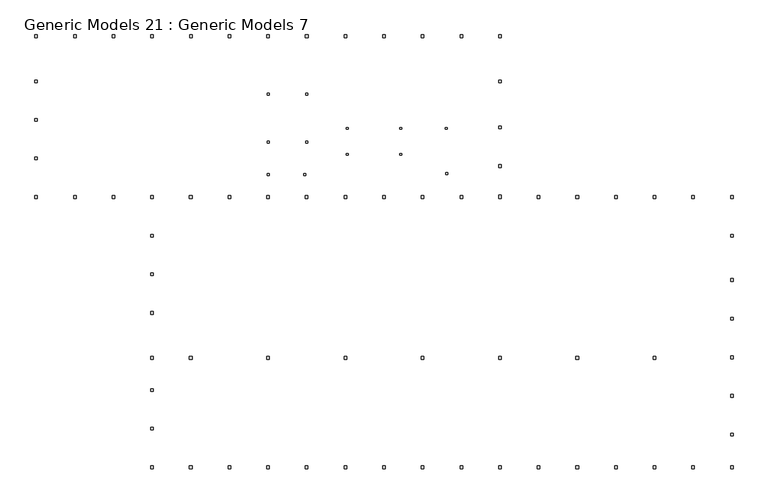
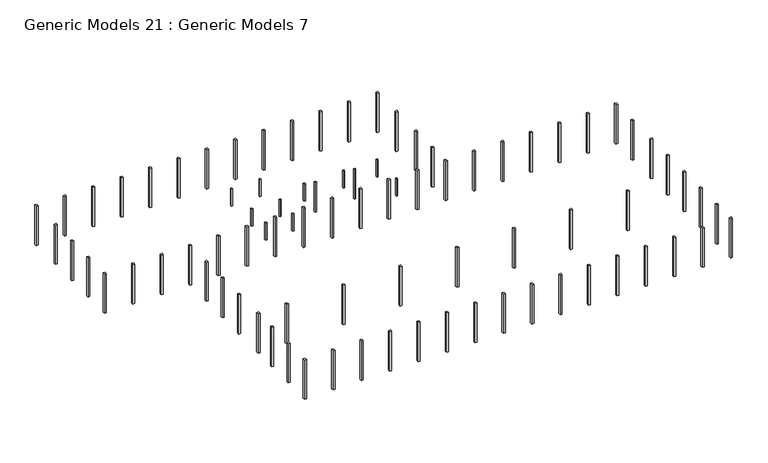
"""IFC4 building model written with IfcOpenShell, lengths in millimetres: proxy geometry, Generic Models 21 : Generic Models 7."""

from ifc_helpers import new_model, si_unit, frame, origin, place, context, project, spatial, polyline, outline, extrude, source, transform, mapped, element, save


def generic_models_21_generic_models_7_8d2ae4a9(model_context):
    return source(origin(), model_context, "Body", "SweptSolid", [
        extrude(outline(polyline([(-89200.5917799, 15507.4703267), (-89200.5917799, 15207.4703267), (-89500.5917799, 15207.4703267), (-89500.5917799, 15507.4703267), (-89200.5917799, 15507.4703267)])), frame((0.0, 0.0, 44170.0), z_axis=(0.0, 0.0, 1.0), x_axis=(1.0, 0.0, 0.0)), (0.0, 0.0, 1.0), 3800.0),
        extrude(outline(polyline([(-104647.9372768, 18469.2777512), (-104647.9372768, 18169.2777512), (-104947.9372768, 18169.2777512), (-104947.9372768, 18469.2777512), (-104647.9372768, 18469.2777512)])), frame((0.0, 0.0, 44170.0), z_axis=(0.0, 0.0, 1.0), x_axis=(1.0, 0.0, 0.0)), (0.0, 0.0, 1.0), 6657.1066037),
        extrude(outline(polyline([(-96347.9372768, 18469.2777512), (-96347.9372768, 18169.2777512), (-96647.9372768, 18169.2777512), (-96647.9372768, 18469.2777512), (-96347.9372768, 18469.2777512)])), frame((0.0, 0.0, 44170.0), z_axis=(0.0, 0.0, 1.0), x_axis=(1.0, 0.0, 0.0)), (0.0, 0.0, 1.0), 6657.1066037),
        extrude(outline(polyline([(-116950.5917799, 27808.4151802), (-116950.5917799, 27508.4151802), (-117250.5917799, 27508.4151802), (-117250.5917799, 27808.4151802), (-116950.5917799, 27808.4151802)])), frame((0.0, 0.0, 44170.0), z_axis=(0.0, 0.0, 1.0), x_axis=(1.0, 0.0, 0.0)), (0.0, 0.0, 1.0), 3800.0),
        extrude(outline(polyline([(-116950.5917799, 20407.4925063), (-116950.5917799, 20107.4925063), (-117250.5917799, 20107.4925063), (-117250.5917799, 20407.4925063), (-116950.5917799, 20407.4925063)])), frame((0.0, 0.0, 44170.0), z_axis=(0.0, 0.0, 1.0), x_axis=(1.0, 0.0, 0.0)), (0.0, 0.0, 1.0), 3800.0),
        extrude(outline(polyline([(-116950.5917799, 15307.4703267), (-116950.5917799, 15007.4703267), (-117250.5917799, 15007.4703267), (-117250.5917799, 15307.4703267), (-116950.5917799, 15307.4703267)])), frame((0.0, 0.0, 44170.0), z_axis=(0.0, 0.0, 1.0), x_axis=(1.0, 0.0, 0.0)), (0.0, 0.0, 1.0), 3800.0),
        extrude(outline(polyline([(-110948.6902477, 27808.4151802), (-110948.6902477, 27508.4151802), (-111248.6902477, 27508.4151802), (-111248.6902477, 27808.4151802), (-110948.6902477, 27808.4151802)])), frame((0.0, 0.0, 44170.0), z_axis=(0.0, 0.0, 1.0), x_axis=(1.0, 0.0, 0.0)), (0.0, 0.0, 1.0), 3800.0),
        extrude(outline(polyline([(-110948.6902477, 20407.4925063), (-110948.6902477, 20107.4925063), (-111248.6902477, 20107.4925063), (-111248.6902477, 20407.4925063), (-110948.6902477, 20407.4925063)])), frame((0.0, 0.0, 44170.0), z_axis=(0.0, 0.0, 1.0), x_axis=(1.0, 0.0, 0.0)), (0.0, 0.0, 1.0), 3800.0),
        extrude(outline(polyline([(-111248.6902477, 15307.4703267), (-111248.6902477, 15007.4703267), (-111548.6902477, 15007.4703267), (-111548.6902477, 15307.4703267), (-111248.6902477, 15307.4703267)])), frame((0.0, 0.0, 44170.0), z_axis=(0.0, 0.0, 1.0), x_axis=(1.0, 0.0, 0.0)), (0.0, 0.0, 1.0), 3800.0),
        extrude(outline(polyline([(-104647.9372768, 22507.4703267), (-104647.9372768, 22207.4703267), (-104947.9372768, 22207.4703267), (-104947.9372768, 22507.4703267), (-104647.9372768, 22507.4703267)])), frame((0.0, 0.0, 44170.0), z_axis=(0.0, 0.0, 1.0), x_axis=(1.0, 0.0, 0.0)), (0.0, 0.0, 1.0), 3800.0),
        extrude(outline(polyline([(-96347.9372768, 22507.4703267), (-96347.9372768, 22207.4703267), (-96647.9372768, 22207.4703267), (-96647.9372768, 22507.4703267), (-96347.9372768, 22507.4703267)])), frame((0.0, 0.0, 44170.0), z_axis=(0.0, 0.0, 1.0), x_axis=(1.0, 0.0, 0.0)), (0.0, 0.0, 1.0), 3800.0),
        extrude(outline(polyline([(-89277.7355895, 22507.4703267), (-89277.7355895, 22207.4703267), (-89577.7355895, 22207.4703267), (-89577.7355895, 22507.4703267), (-89277.7355895, 22507.4703267)])), frame((0.0, 0.0, 44170.0), z_axis=(0.0, 0.0, 1.0), x_axis=(1.0, 0.0, 0.0)), (0.0, 0.0, 1.0), 3800.0),
        extrude(outline(polyline([(-104898.6902477, 36890.8418015), (-104898.6902477, 36455.969902), (-105298.6902477, 36455.969902), (-105298.6902477, 36890.8418015), (-104898.6902477, 36890.8418015)])), frame((0.0, 0.0, 42595.7610843), z_axis=(0.0, 0.0, 1.0), x_axis=(1.0, 0.0, 0.0)), (0.0, 0.0, 1.0), 8775.9184321),
        extrude(outline(polyline([(-128898.6902477, 36890.8418015), (-128898.6902477, 36455.969902), (-129298.6902477, 36455.969902), (-129298.6902477, 36890.8418015), (-128898.6902477, 36890.8418015)])), frame((0.0, 0.0, 42595.7610843), z_axis=(0.0, 0.0, 1.0), x_axis=(1.0, 0.0, 0.0)), (0.0, 0.0, 1.0), 8775.9184321),
        extrude(outline(polyline([(-80898.6902477, 36890.8418015), (-80898.6902477, 36430.8418015), (-81298.6902477, 36430.8418015), (-81298.6902477, 36890.8418015), (-80898.6902477, 36890.8418015)])), frame((0.0, 0.0, 42595.7610843), z_axis=(0.0, 0.0, 1.0), x_axis=(1.0, 0.0, 0.0)), (0.0, 0.0, 1.0), 8775.9184321),
        extrude(outline(polyline([(-68900.5917799, 11908.2777512), (-68900.5917799, 11448.2777512), (-69300.5917799, 11448.2777512), (-69300.5917799, 11908.2777512), (-68900.5917799, 11908.2777512)])), frame((0.0, 0.0, 42595.7610843), z_axis=(0.0, 0.0, 1.0), x_axis=(1.0, 0.0, 0.0)), (0.0, 0.0, 1.0), 8775.9184321),
        extrude(outline(polyline([(-92900.5917799, 11928.2777512), (-92900.5917799, 11448.2777512), (-93300.5917799, 11448.2777512), (-93300.5917799, 11928.2777512), (-92900.5917799, 11928.2777512)])), frame((0.0, 0.0, 42595.7610843), z_axis=(0.0, 0.0, 1.0), x_axis=(1.0, 0.0, 0.0)), (0.0, 0.0, 1.0), 8775.9184321),
        extrude(outline(polyline([(-44900.5917799, 11908.2777512), (-44900.5917799, 11448.2777512), (-45300.5917799, 11448.2777512), (-45300.5917799, 11908.2777512), (-44900.5917799, 11908.2777512)])), frame((0.0, 0.0, 42595.7610843), z_axis=(0.0, 0.0, 1.0), x_axis=(1.0, 0.0, 0.0)), (0.0, 0.0, 1.0), 8775.9184321),
        extrude(outline(polyline([(-86898.6902477, 36890.8418015), (-86898.6902477, 36430.8418015), (-87298.6902477, 36430.8418015), (-87298.6902477, 36890.8418015), (-86898.6902477, 36890.8418015)])), frame((0.0, 0.0, 42595.7610843), z_axis=(0.0, 0.0, 1.0), x_axis=(1.0, 0.0, 0.0)), (0.0, 0.0, 1.0), 8775.9184321),
        extrude(outline(polyline([(-92898.6902477, 36890.8418015), (-92898.6902477, 36430.8418015), (-93298.6902477, 36430.8418015), (-93298.6902477, 36890.8418015), (-92898.6902477, 36890.8418015)])), frame((0.0, 0.0, 42595.7610843), z_axis=(0.0, 0.0, 1.0), x_axis=(1.0, 0.0, 0.0)), (0.0, 0.0, 1.0), 8775.9184321),
        extrude(outline(polyline([(-98898.6902477, 36890.8418015), (-98898.6902477, 36430.8418015), (-99298.6902477, 36430.8418015), (-99298.6902477, 36890.8418015), (-98898.6902477, 36890.8418015)])), frame((0.0, 0.0, 42595.7610843), z_axis=(0.0, 0.0, 1.0), x_axis=(1.0, 0.0, 0.0)), (0.0, 0.0, 1.0), 8775.9184321),
        extrude(outline(polyline([(-110898.6902477, 36890.8418015), (-110898.6902477, 36455.969902), (-111298.6902477, 36455.969902), (-111298.6902477, 36890.8418015), (-110898.6902477, 36890.8418015)])), frame((0.0, 0.0, 42595.7610843), z_axis=(0.0, 0.0, 1.0), x_axis=(1.0, 0.0, 0.0)), (0.0, 0.0, 1.0), 8775.9184321),
        extrude(outline(polyline([(-116898.6902477, 36890.8418015), (-116898.6902477, 36455.969902), (-117298.6902477, 36455.969902), (-117298.6902477, 36890.8418015), (-116898.6902477, 36890.8418015)])), frame((0.0, 0.0, 42595.7610843), z_axis=(0.0, 0.0, 1.0), x_axis=(1.0, 0.0, 0.0)), (0.0, 0.0, 1.0), 8775.9184321),
        extrude(outline(polyline([(-122898.6902477, 36890.8418015), (-122898.6902477, 36455.969902), (-123298.6902477, 36455.969902), (-123298.6902477, 36890.8418015), (-122898.6902477, 36890.8418015)])), frame((0.0, 0.0, 42595.7610843), z_axis=(0.0, 0.0, 1.0), x_axis=(1.0, 0.0, 0.0)), (0.0, 0.0, 1.0), 8775.9184321),
        extrude(outline(polyline([(-134898.6902477, 36890.8418015), (-134898.6902477, 36455.969902), (-135298.6902477, 36455.969902), (-135298.6902477, 36890.8418015), (-134898.6902477, 36890.8418015)])), frame((0.0, 0.0, 42595.7610843), z_axis=(0.0, 0.0, 1.0), x_axis=(1.0, 0.0, 0.0)), (0.0, 0.0, 1.0), 8775.9184321),
        extrude(outline(polyline([(-80898.6902477, 22694.7192501), (-80898.6902477, 22294.7192501), (-81298.6902477, 22294.7192501), (-81298.6902477, 22694.7192501), (-80898.6902477, 22694.7192501)])), frame((0.0, 0.0, 42595.7610843), z_axis=(0.0, 0.0, 1.0), x_axis=(1.0, 0.0, 0.0)), (0.0, 0.0, 1.0), 8775.9184321),
        extrude(outline(polyline([(-80898.6902477, 16694.7192501), (-80898.6902477, 16294.7192501), (-81298.6902477, 16294.7192501), (-81298.6902477, 16694.7192501), (-80898.6902477, 16694.7192501)])), frame((0.0, 0.0, 42595.7610843), z_axis=(0.0, 0.0, 1.0), x_axis=(1.0, 0.0, 0.0)), (0.0, 0.0, 1.0), 8775.9184321),
        extrude(outline(polyline([(-44900.5917799, 5888.2777512), (-44900.5917799, 5488.2777512), (-45300.5917799, 5488.2777512), (-45300.5917799, 5888.2777512), (-44900.5917799, 5888.2777512)])), frame((0.0, 0.0, 42595.7610843), z_axis=(0.0, 0.0, 1.0), x_axis=(1.0, 0.0, 0.0)), (0.0, 0.0, 1.0), 8775.9184321),
        extrude(outline(polyline([(-44900.5917799, -1005.2807499), (-44900.5917799, -1405.2807499), (-45300.5917799, -1405.2807499), (-45300.5917799, -1005.2807499), (-44900.5917799, -1005.2807499)])), frame((0.0, 0.0, 42595.7610843), z_axis=(0.0, 0.0, 1.0), x_axis=(1.0, 0.0, 0.0)), (0.0, 0.0, 1.0), 8775.9184321),
        extrude(outline(polyline([(-104900.5917799, 11908.2777512), (-104900.5917799, 11428.2777512), (-105300.5917799, 11428.2777512), (-105300.5917799, 11908.2777512), (-104900.5917799, 11908.2777512)])), frame((0.0, 0.0, 42595.7610843), z_axis=(0.0, 0.0, 1.0), x_axis=(1.0, 0.0, 0.0)), (0.0, 0.0, 1.0), 8775.9184321),
        extrude(outline(polyline([(-110900.5917799, 11908.2777512), (-110900.5917799, 11448.2777512), (-111300.5917799, 11448.2777512), (-111300.5917799, 11908.2777512), (-110900.5917799, 11908.2777512)])), frame((0.0, 0.0, 42595.7610843), z_axis=(0.0, 0.0, 1.0), x_axis=(1.0, 0.0, 0.0)), (0.0, 0.0, 1.0), 8775.9184321),
        extrude(outline(polyline([(-98902.4933121, 11928.2777512), (-98902.4933121, 11448.2777512), (-99302.4933121, 11448.2777512), (-99302.4933121, 11928.2777512), (-98902.4933121, 11928.2777512)])), frame((0.0, 0.0, 42595.7610843), z_axis=(0.0, 0.0, 1.0), x_axis=(1.0, 0.0, 0.0)), (0.0, 0.0, 1.0), 8775.9184321),
        extrude(outline(polyline([(-74900.5917799, 11908.2777512), (-74900.5917799, 11448.2777512), (-75300.5917799, 11448.2777512), (-75300.5917799, 11908.2777512), (-74900.5917799, 11908.2777512)])), frame((0.0, 0.0, 42595.7610843), z_axis=(0.0, 0.0, 1.0), x_axis=(1.0, 0.0, 0.0)), (0.0, 0.0, 1.0), 8775.9184321),
        extrude(outline(polyline([(-80900.5917799, 11958.2777512), (-80900.5917799, 11448.2777512), (-81300.5917799, 11448.2777512), (-81300.5917799, 11958.2777512), (-80900.5917799, 11958.2777512)])), frame((0.0, 0.0, 42595.7610843), z_axis=(0.0, 0.0, 1.0), x_axis=(1.0, 0.0, 0.0)), (0.0, 0.0, 1.0), 8775.9184321),
        extrude(outline(polyline([(-86900.5917799, 11928.2777512), (-86900.5917799, 11448.2777512), (-87300.5917799, 11448.2777512), (-87300.5917799, 11928.2777512), (-86900.5917799, 11928.2777512)])), frame((0.0, 0.0, 42595.7610843), z_axis=(0.0, 0.0, 1.0), x_axis=(1.0, 0.0, 0.0)), (0.0, 0.0, 1.0), 8775.9184321),
        extrude(outline(polyline([(-50900.5917799, 11908.2777512), (-50900.5917799, 11448.2777512), (-51300.5917799, 11448.2777512), (-51300.5917799, 11908.2777512), (-50900.5917799, 11908.2777512)])), frame((0.0, 0.0, 42595.7610843), z_axis=(0.0, 0.0, 1.0), x_axis=(1.0, 0.0, 0.0)), (0.0, 0.0, 1.0), 8775.9184321),
        extrude(outline(polyline([(-56900.5917799, 11908.2777512), (-56900.5917799, 11448.2777512), (-57300.5917799, 11448.2777512), (-57300.5917799, 11908.2777512), (-56900.5917799, 11908.2777512)])), frame((0.0, 0.0, 42595.7610843), z_axis=(0.0, 0.0, 1.0), x_axis=(1.0, 0.0, 0.0)), (0.0, 0.0, 1.0), 8775.9184321),
        extrude(outline(polyline([(-62900.5917799, 11908.2777512), (-62900.5917799, 11448.2777512), (-63300.5917799, 11448.2777512), (-63300.5917799, 11908.2777512), (-62900.5917799, 11908.2777512)])), frame((0.0, 0.0, 42595.7610843), z_axis=(0.0, 0.0, 1.0), x_axis=(1.0, 0.0, 0.0)), (0.0, 0.0, 1.0), 8775.9184321),
        extrude(outline(polyline([(-122900.5917799, 11928.2777512), (-122900.5917799, 11448.2777512), (-123300.5917799, 11448.2777512), (-123300.5917799, 11928.2777512), (-122900.5917799, 11928.2777512)])), frame((0.0, 0.0, 42595.7610843), z_axis=(0.0, 0.0, 1.0), x_axis=(1.0, 0.0, 0.0)), (0.0, 0.0, 1.0), 8775.9184321),
        extrude(outline(polyline([(-134900.5917799, 11908.2777512), (-134900.5917799, 11448.2777512), (-135300.5917799, 11448.2777512), (-135300.5917799, 11908.2777512), (-134900.5917799, 11908.2777512)])), frame((0.0, 0.0, 42595.7610843), z_axis=(0.0, 0.0, 1.0), x_axis=(1.0, 0.0, 0.0)), (0.0, 0.0, 1.0), 8775.9184321),
        extrude(outline(polyline([(-128902.4933121, 11928.2777512), (-128902.4933121, 11448.2777512), (-129302.4933121, 11448.2777512), (-129302.4933121, 11928.2777512), (-128902.4933121, 11928.2777512)])), frame((0.0, 0.0, 42595.7610843), z_axis=(0.0, 0.0, 1.0), x_axis=(1.0, 0.0, 0.0)), (0.0, 0.0, 1.0), 8775.9184321),
        extrude(outline(polyline([(-116900.5917799, 11928.2777512), (-116900.5917799, 11448.2777512), (-117300.5917799, 11448.2777512), (-117300.5917799, 11928.2777512), (-116900.5917799, 11928.2777512)])), frame((0.0, 0.0, 42595.7610843), z_axis=(0.0, 0.0, 1.0), x_axis=(1.0, 0.0, 0.0)), (0.0, 0.0, 1.0), 8775.9184321),
        extrude(outline(polyline([(-135300.5917799, 5888.2777512), (-134900.5917799, 5888.2777512), (-134900.5917799, 5468.2777512), (-135300.5917799, 5468.2777512), (-135300.5917799, 5888.2777512)])), frame((0.0, 0.0, 42595.7610843), z_axis=(0.0, 0.0, 1.0), x_axis=(1.0, 0.0, 0.0)), (0.0, 0.0, 1.0), 8775.9184321),
        extrude(outline(polyline([(-135300.5917799, -125.2807499), (-134900.5917799, -125.2807499), (-134900.5917799, -525.2807499), (-135300.5917799, -525.2807499), (-135300.5917799, -125.2807499)])), frame((0.0, 0.0, 42595.7610843), z_axis=(0.0, 0.0, 1.0), x_axis=(1.0, 0.0, 0.0)), (0.0, 0.0, 1.0), 8775.9184321),
        extrude(outline(polyline([(-68900.5917799, -30551.740321), (-69300.5917799, -30551.740321), (-69300.5917799, -30091.740321), (-68900.5917799, -30091.740321), (-68900.5917799, -30551.740321)])), frame((0.0, 0.0, 42595.7610843), z_axis=(0.0, 0.0, 1.0), x_axis=(1.0, 0.0, 0.0)), (0.0, 0.0, 1.0), 8775.9184321),
        extrude(outline(polyline([(-92900.5917799, -30551.740321), (-93300.5917799, -30551.740321), (-93300.5917799, -30091.740321), (-92900.5917799, -30091.740321), (-92900.5917799, -30551.740321)])), frame((0.0, 0.0, 42595.7610843), z_axis=(0.0, 0.0, 1.0), x_axis=(1.0, 0.0, 0.0)), (0.0, 0.0, 1.0), 8775.9184321),
        extrude(outline(polyline([(-44900.5917799, -30521.740321), (-45300.5917799, -30521.740321), (-45300.5917799, -30091.740321), (-44900.5917799, -30091.740321), (-44900.5917799, -30521.740321)])), frame((0.0, 0.0, 42595.7610843), z_axis=(0.0, 0.0, 1.0), x_axis=(1.0, 0.0, 0.0)), (0.0, 0.0, 1.0), 8775.9184321),
        extrude(outline(polyline([(-104900.5917799, -30551.740321), (-105300.5917799, -30551.740321), (-105300.5917799, -30091.740321), (-104900.5917799, -30091.740321), (-104900.5917799, -30551.740321)])), frame((0.0, 0.0, 42595.7610843), z_axis=(0.0, 0.0, 1.0), x_axis=(1.0, 0.0, 0.0)), (0.0, 0.0, 1.0), 8775.9184321),
        extrude(outline(polyline([(-110900.5917799, -30551.740321), (-111300.5917799, -30551.740321), (-111300.5917799, -30091.740321), (-110900.5917799, -30091.740321), (-110900.5917799, -30551.740321)])), frame((0.0, 0.0, 42595.7610843), z_axis=(0.0, 0.0, 1.0), x_axis=(1.0, 0.0, 0.0)), (0.0, 0.0, 1.0), 8775.9184321),
        extrude(outline(polyline([(-98902.4933121, -30571.740321), (-99302.4933121, -30571.740321), (-99302.4933121, -30111.740321), (-98902.4933121, -30111.740321), (-98902.4933121, -30571.740321)])), frame((0.0, 0.0, 42595.7610843), z_axis=(0.0, 0.0, 1.0), x_axis=(1.0, 0.0, 0.0)), (0.0, 0.0, 1.0), 8775.9184321),
        extrude(outline(polyline([(-74900.5917799, -30551.740321), (-75300.5917799, -30551.740321), (-75300.5917799, -30091.740321), (-74900.5917799, -30091.740321), (-74900.5917799, -30551.740321)])), frame((0.0, 0.0, 42595.7610843), z_axis=(0.0, 0.0, 1.0), x_axis=(1.0, 0.0, 0.0)), (0.0, 0.0, 1.0), 8775.9184321),
        extrude(outline(polyline([(-80900.5917799, -30551.740321), (-81300.5917799, -30551.740321), (-81300.5917799, -30091.740321), (-80900.5917799, -30091.740321), (-80900.5917799, -30551.740321)])), frame((0.0, 0.0, 42595.7610843), z_axis=(0.0, 0.0, 1.0), x_axis=(1.0, 0.0, 0.0)), (0.0, 0.0, 1.0), 8775.9184321),
        extrude(outline(polyline([(-86900.5917799, -30551.740321), (-87300.5917799, -30551.740321), (-87300.5917799, -30091.740321), (-86900.5917799, -30091.740321), (-86900.5917799, -30551.740321)])), frame((0.0, 0.0, 42595.7610843), z_axis=(0.0, 0.0, 1.0), x_axis=(1.0, 0.0, 0.0)), (0.0, 0.0, 1.0), 8775.9184321),
        extrude(outline(polyline([(-50900.5917799, -30521.740321), (-51300.5917799, -30521.740321), (-51300.5917799, -30091.740321), (-50900.5917799, -30091.740321), (-50900.5917799, -30521.740321)])), frame((0.0, 0.0, 42595.7610843), z_axis=(0.0, 0.0, 1.0), x_axis=(1.0, 0.0, 0.0)), (0.0, 0.0, 1.0), 8775.9184321),
        extrude(outline(polyline([(-56900.5917799, -30551.740321), (-57300.5917799, -30551.740321), (-57300.5917799, -30091.740321), (-56900.5917799, -30091.740321), (-56900.5917799, -30551.740321)])), frame((0.0, 0.0, 42595.7610843), z_axis=(0.0, 0.0, 1.0), x_axis=(1.0, 0.0, 0.0)), (0.0, 0.0, 1.0), 8775.9184321),
        extrude(outline(polyline([(-62900.5917799, -30551.740321), (-63300.5917799, -30551.740321), (-63300.5917799, -30091.740321), (-62900.5917799, -30091.740321), (-62900.5917799, -30551.740321)])), frame((0.0, 0.0, 42595.7610843), z_axis=(0.0, 0.0, 1.0), x_axis=(1.0, 0.0, 0.0)), (0.0, 0.0, 1.0), 8775.9184321),
        extrude(outline(polyline([(-122900.5917799, -30551.740321), (-123300.5917799, -30551.740321), (-123300.5917799, -30091.740321), (-122900.5917799, -30091.740321), (-122900.5917799, -30551.740321)])), frame((0.0, 0.0, 42595.7610843), z_axis=(0.0, 0.0, 1.0), x_axis=(1.0, 0.0, 0.0)), (0.0, 0.0, 1.0), 8775.9184321),
        extrude(outline(polyline([(-134900.5917799, -30551.740321), (-135300.5917799, -30551.740321), (-135300.5917799, -30091.740321), (-134900.5917799, -30091.740321), (-134900.5917799, -30551.740321)])), frame((0.0, 0.0, 42595.7610843), z_axis=(0.0, 0.0, 1.0), x_axis=(1.0, 0.0, 0.0)), (0.0, 0.0, 1.0), 8775.9184321),
        extrude(outline(polyline([(-128902.4933121, -30551.740321), (-129302.4933121, -30551.740321), (-129302.4933121, -30091.740321), (-128902.4933121, -30091.740321), (-128902.4933121, -30551.740321)])), frame((0.0, 0.0, 42595.7610843), z_axis=(0.0, 0.0, 1.0), x_axis=(1.0, 0.0, 0.0)), (0.0, 0.0, 1.0), 8775.9184321),
        extrude(outline(polyline([(-116900.5917799, -30551.740321), (-117300.5917799, -30551.740321), (-117300.5917799, -30091.740321), (-116900.5917799, -30091.740321), (-116900.5917799, -30551.740321)])), frame((0.0, 0.0, 42595.7610843), z_axis=(0.0, 0.0, 1.0), x_axis=(1.0, 0.0, 0.0)), (0.0, 0.0, 1.0), 8775.9184321),
        extrude(outline(polyline([(-80898.6902477, 29873.8480121), (-80898.6902477, 29473.8480121), (-81298.6902477, 29473.8480121), (-81298.6902477, 29873.8480121), (-80898.6902477, 29873.8480121)])), frame((0.0, 0.0, 42595.7610843), z_axis=(0.0, 0.0, 1.0), x_axis=(1.0, 0.0, 0.0)), (0.0, 0.0, 1.0), 8775.9184321),
        extrude(outline(polyline([(-44900.5917799, -7023.3309457), (-44900.5917799, -7423.3309457), (-45300.5917799, -7423.3309457), (-45300.5917799, -7023.3309457), (-44900.5917799, -7023.3309457)])), frame((0.0, 0.0, 42595.7610843), z_axis=(0.0, 0.0, 1.0), x_axis=(1.0, 0.0, 0.0)), (0.0, 0.0, 1.0), 8775.9184321),
        extrude(outline(polyline([(-135300.5917799, -6125.2807499), (-134900.5917799, -6125.2807499), (-134900.5917799, -6525.2807499), (-135300.5917799, -6525.2807499), (-135300.5917799, -6125.2807499)])), frame((0.0, 0.0, 42595.7610843), z_axis=(0.0, 0.0, 1.0), x_axis=(1.0, 0.0, 0.0)), (0.0, 0.0, 1.0), 8775.9184321),
        extrude(outline(polyline([(-44900.5917799, -12989.7905168), (-44900.5917799, -13449.7905168), (-45300.5917799, -13449.7905168), (-45300.5917799, -12989.7905168), (-44900.5917799, -12989.7905168)])), frame((0.0, 0.0, 42595.7610843), z_axis=(0.0, 0.0, 1.0), x_axis=(1.0, 0.0, 0.0)), (0.0, 0.0, 1.0), 8775.9184321),
        extrude(outline(polyline([(-135300.5917799, -13091.740321), (-134900.5917799, -13091.740321), (-134900.5917799, -13551.740321), (-135300.5917799, -13551.740321), (-135300.5917799, -13091.740321)])), frame((0.0, 0.0, 42595.7610843), z_axis=(0.0, 0.0, 1.0), x_axis=(1.0, 0.0, 0.0)), (0.0, 0.0, 1.0), 8775.9184321),
        extrude(outline(polyline([(-44900.5917799, -19016.2139435), (-44900.5917799, -19416.2139435), (-45300.5917799, -19416.2139435), (-45300.5917799, -19016.2139435), (-44900.5917799, -19016.2139435)])), frame((0.0, 0.0, 42595.7610843), z_axis=(0.0, 0.0, 1.0), x_axis=(1.0, 0.0, 0.0)), (0.0, 0.0, 1.0), 8775.9184321),
        extrude(outline(polyline([(-135300.5917799, -18118.1637477), (-134900.5917799, -18118.1637477), (-134900.5917799, -18518.1637477), (-135300.5917799, -18518.1637477), (-135300.5917799, -18118.1637477)])), frame((0.0, 0.0, 42595.7610843), z_axis=(0.0, 0.0, 1.0), x_axis=(1.0, 0.0, 0.0)), (0.0, 0.0, 1.0), 8775.9184321),
        extrude(outline(polyline([(-44900.5917799, -25012.6554424), (-44900.5917799, -25412.6554424), (-45300.5917799, -25412.6554424), (-45300.5917799, -25012.6554424), (-44900.5917799, -25012.6554424)])), frame((0.0, 0.0, 42595.7610843), z_axis=(0.0, 0.0, 1.0), x_axis=(1.0, 0.0, 0.0)), (0.0, 0.0, 1.0), 8775.9184321),
        extrude(outline(polyline([(-135300.5917799, -24114.6052466), (-134900.5917799, -24114.6052466), (-134900.5917799, -24514.6052466), (-135300.5917799, -24514.6052466), (-135300.5917799, -24114.6052466)])), frame((0.0, 0.0, 42595.7610843), z_axis=(0.0, 0.0, 1.0), x_axis=(1.0, 0.0, 0.0)), (0.0, 0.0, 1.0), 8775.9184321),
        extrude(outline(polyline([(-129300.5917799, -13091.740321), (-128900.5917799, -13091.740321), (-128900.5917799, -13551.740321), (-129300.5917799, -13551.740321), (-129300.5917799, -13091.740321)])), frame((0.0, 0.0, 42595.7610843), z_axis=(0.0, 0.0, 1.0), x_axis=(1.0, 0.0, 0.0)), (0.0, 0.0, 1.0), 8775.9184321),
        extrude(outline(polyline([(-117300.5917799, -13091.740321), (-116900.5917799, -13091.740321), (-116900.5917799, -13551.740321), (-117300.5917799, -13551.740321), (-117300.5917799, -13091.740321)])), frame((0.0, 0.0, 42595.7610843), z_axis=(0.0, 0.0, 1.0), x_axis=(1.0, 0.0, 0.0)), (0.0, 0.0, 1.0), 8775.9184321),
        extrude(outline(polyline([(-105300.5917799, -13091.740321), (-104900.5917799, -13091.740321), (-104900.5917799, -13551.740321), (-105300.5917799, -13551.740321), (-105300.5917799, -13091.740321)])), frame((0.0, 0.0, 42595.7610843), z_axis=(0.0, 0.0, 1.0), x_axis=(1.0, 0.0, 0.0)), (0.0, 0.0, 1.0), 8775.9184321),
        extrude(outline(polyline([(-93300.5917799, -13091.740321), (-92900.5917799, -13091.740321), (-92900.5917799, -13551.740321), (-93300.5917799, -13551.740321), (-93300.5917799, -13091.740321)])), frame((0.0, 0.0, 42595.7610843), z_axis=(0.0, 0.0, 1.0), x_axis=(1.0, 0.0, 0.0)), (0.0, 0.0, 1.0), 8775.9184321),
        extrude(outline(polyline([(-81300.5917799, -13091.740321), (-80900.5917799, -13091.740321), (-80900.5917799, -13551.740321), (-81300.5917799, -13551.740321), (-81300.5917799, -13091.740321)])), frame((0.0, 0.0, 42595.7610843), z_axis=(0.0, 0.0, 1.0), x_axis=(1.0, 0.0, 0.0)), (0.0, 0.0, 1.0), 8775.9184321),
        extrude(outline(polyline([(-69300.5917799, -13091.740321), (-68900.5917799, -13091.740321), (-68900.5917799, -13551.740321), (-69300.5917799, -13551.740321), (-69300.5917799, -13091.740321)])), frame((0.0, 0.0, 42595.7610843), z_axis=(0.0, 0.0, 1.0), x_axis=(1.0, 0.0, 0.0)), (0.0, 0.0, 1.0), 8775.9184321),
        extrude(outline(polyline([(-57300.5917799, -13091.740321), (-56900.5917799, -13091.740321), (-56900.5917799, -13551.740321), (-57300.5917799, -13551.740321), (-57300.5917799, -13091.740321)])), frame((0.0, 0.0, 42595.7610843), z_axis=(0.0, 0.0, 1.0), x_axis=(1.0, 0.0, 0.0)), (0.0, 0.0, 1.0), 8775.9184321),
        extrude(outline(polyline([(-152898.6902477, 36890.8418015), (-152898.6902477, 36455.969902), (-153298.6902477, 36455.969902), (-153298.6902477, 36890.8418015), (-152898.6902477, 36890.8418015)])), frame((0.0, 0.0, 42595.7610843), z_axis=(0.0, 0.0, 1.0), x_axis=(1.0, 0.0, 0.0)), (0.0, 0.0, 1.0), 8775.9184321),
        extrude(outline(polyline([(-152898.6902477, 17878.7199116), (-152898.6902477, 17478.7199116), (-153298.6902477, 17478.7199116), (-153298.6902477, 17878.7199116), (-152898.6902477, 17878.7199116)])), frame((0.0, 0.0, 42595.7610843), z_axis=(0.0, 0.0, 1.0), x_axis=(1.0, 0.0, 0.0)), (0.0, 0.0, 1.0), 8775.9184321),
        extrude(outline(polyline([(-152898.6902477, 29873.8480121), (-152898.6902477, 29473.8480121), (-153298.6902477, 29473.8480121), (-153298.6902477, 29873.8480121), (-152898.6902477, 29873.8480121)])), frame((0.0, 0.0, 42595.7610843), z_axis=(0.0, 0.0, 1.0), x_axis=(1.0, 0.0, 0.0)), (0.0, 0.0, 1.0), 8775.9184321),
        extrude(outline(polyline([(-152898.6902477, 23878.7199116), (-152898.6902477, 23478.7199116), (-153298.6902477, 23478.7199116), (-153298.6902477, 23878.7199116), (-152898.6902477, 23878.7199116)])), frame((0.0, 0.0, 42595.7610843), z_axis=(0.0, 0.0, 1.0), x_axis=(1.0, 0.0, 0.0)), (0.0, 0.0, 1.0), 8775.9184321),
        extrude(outline(polyline([(-152900.5917799, 11908.2777512), (-152900.5917799, 11448.2777512), (-153300.5917799, 11448.2777512), (-153300.5917799, 11908.2777512), (-152900.5917799, 11908.2777512)])), frame((0.0, 0.0, 42595.7610843), z_axis=(0.0, 0.0, 1.0), x_axis=(1.0, 0.0, 0.0)), (0.0, 0.0, 1.0), 8775.9184321),
        extrude(outline(polyline([(-140898.6902477, 36890.8418015), (-140898.6902477, 36455.969902), (-141298.6902477, 36455.969902), (-141298.6902477, 36890.8418015), (-140898.6902477, 36890.8418015)])), frame((0.0, 0.0, 42595.7610843), z_axis=(0.0, 0.0, 1.0), x_axis=(1.0, 0.0, 0.0)), (0.0, 0.0, 1.0), 8775.9184321),
        extrude(outline(polyline([(-140900.5917799, 11908.2777512), (-140900.5917799, 11448.2777512), (-141300.5917799, 11448.2777512), (-141300.5917799, 11908.2777512), (-140900.5917799, 11908.2777512)])), frame((0.0, 0.0, 42595.7610843), z_axis=(0.0, 0.0, 1.0), x_axis=(1.0, 0.0, 0.0)), (0.0, 0.0, 1.0), 8775.9184321),
        extrude(outline(polyline([(-146898.6902477, 36890.8418015), (-146898.6902477, 36455.969902), (-147298.6902477, 36455.969902), (-147298.6902477, 36890.8418015), (-146898.6902477, 36890.8418015)])), frame((0.0, 0.0, 42595.7610843), z_axis=(0.0, 0.0, 1.0), x_axis=(1.0, 0.0, 0.0)), (0.0, 0.0, 1.0), 8775.9184321),
        extrude(outline(polyline([(-146900.5917799, 11908.2777512), (-146900.5917799, 11448.2777512), (-147300.5917799, 11448.2777512), (-147300.5917799, 11908.2777512), (-146900.5917799, 11908.2777512)])), frame((0.0, 0.0, 42595.7610843), z_axis=(0.0, 0.0, 1.0), x_axis=(1.0, 0.0, 0.0)), (0.0, 0.0, 1.0), 8775.9184321),
    ])


if __name__ == "__main__":
    model = new_model("IFC4")
    model_context = context("Model", 3, world=origin())
    ifc_project = project(units=[si_unit("LENGTHUNIT", "METRE", prefix="MILLI")], contexts=[model_context])
    site = spatial("IfcSite", under=ifc_project)
    building = spatial("IfcBuilding", under=site)
    placement = place(None, origin())
    generic_models_21_generic_models_7_shape = generic_models_21_generic_models_7_8d2ae4a9(model_context)
    element("IfcBuildingElementProxy", 1, Name="Generic Models 21 : Generic Models 7", ObjectType="Generic Models 21 : Generic Models 7", at=placement, inside=building, context=model_context, shape_type="MappedRepresentation", body=[
        mapped(generic_models_21_generic_models_7_shape, transform((0.0, 0.0, 0.0), x_axis=(1.0, 0.0, 0.0), y_axis=(0.0, 1.0, 0.0), z_axis=(0.0, 0.0, 1.0))),
    ])
    save(model, "model.ifc")
